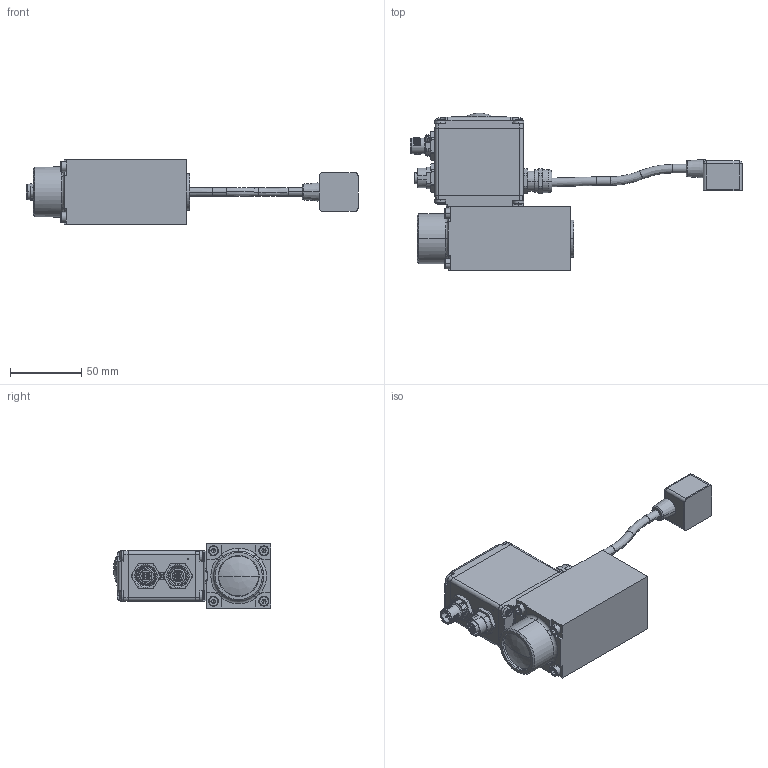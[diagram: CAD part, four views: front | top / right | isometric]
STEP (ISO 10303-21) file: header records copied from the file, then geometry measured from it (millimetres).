
FILE_DESCRIPTION (( 'STEP AP203' ), '1' );
FILE_NAME ('PI45EV-P2-24P_110mm .step', '2013-07-29T06:48:32', ( 'Wandfluh AG' ), ( 'Wandfluh AG' ), 'SwSTEP 2.0', 'SolidWorks 2012', '' );
FILE_SCHEMA (( 'CONFIG_CONTROL_DESIGN' ));
Length unit declared in the file: millimetre
Products named in the file (1): PI45EV-P2-24P_110mm 
Bounding box: 232.65 x 110.39 x 45 mm (x, y, z)
Volume: 270991.1 mm3; surface area: 85161 mm2
Topology: 32 solids, 32 shells, 3345 faces, 8975 edges, 5773 vertices
Faces by surface type: plane 1647, cylinder 1067, cone 246, torus 219, bspline 137, sphere 29
Entity records: 110821 total; most frequent: CARTESIAN_POINT 28069, ORIENTED_EDGE 17830, DIRECTION 16538, EDGE_CURVE 8915, VERTEX_POINT 5773, AXIS2_PLACEMENT_3D 5513, LINE 5512, VECTOR 5512
